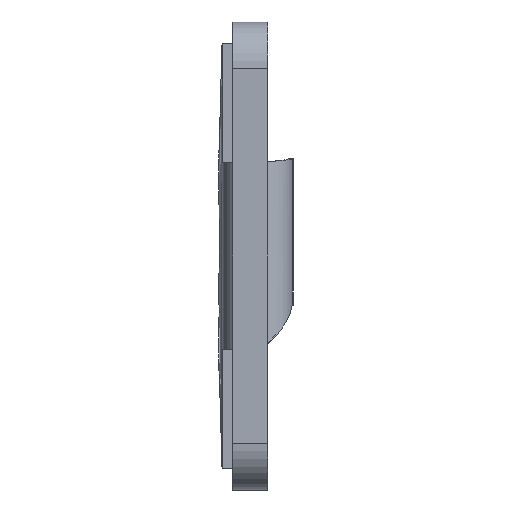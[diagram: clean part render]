
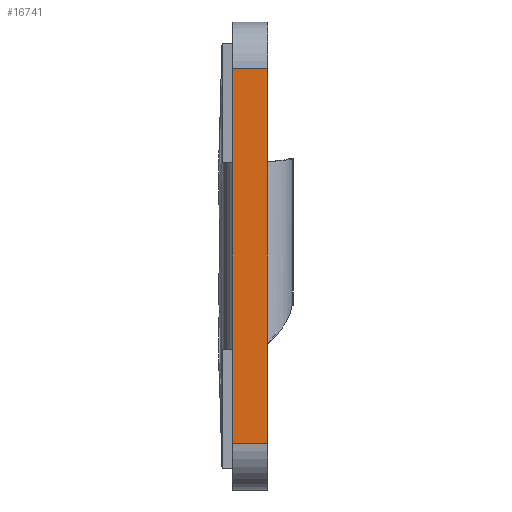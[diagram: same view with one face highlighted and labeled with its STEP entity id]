
A CAD part, left-side view. The second image highlights one B-rep face of the part: STEP entity #16741.
In plain terms, the highlighted planar face has unit normal (-1, 0, 0) as drawn and (0, 0, -1) by its records, which use the part's own axes.
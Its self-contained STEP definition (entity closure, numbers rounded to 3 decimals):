
#1331 = EDGE_CURVE ( 'NONE', #2813, #2835, #6066, .T. ) ;
#1336 = EDGE_CURVE ( 'NONE', #2835, #2851, #6083, .T. ) ;
#1341 = EDGE_CURVE ( 'NONE', #2813, #2898, #6068, .T. ) ;
#1342 = EDGE_CURVE ( 'NONE', #2898, #2851, #6069, .T. ) ;
#2558 = EDGE_LOOP ( 'NONE', ( #3794, #3801, #3732, #3778 ) ) ;
#2813 = VERTEX_POINT ( 'NONE', #7083 ) ;
#2835 = VERTEX_POINT ( 'NONE', #7135 ) ;
#2851 = VERTEX_POINT ( 'NONE', #7155 ) ;
#2898 = VERTEX_POINT ( 'NONE', #7158 ) ;
#3732 = ORIENTED_EDGE ( 'NONE', *, *, #1331, .F. ) ;
#3778 = ORIENTED_EDGE ( 'NONE', *, *, #1341, .T. ) ;
#3794 = ORIENTED_EDGE ( 'NONE', *, *, #1342, .T. ) ;
#3801 = ORIENTED_EDGE ( 'NONE', *, *, #1336, .F. ) ;
#6066 = LINE ( 'NONE', #6701, #6093 ) ;
#6068 = LINE ( 'NONE', #6733, #6089 ) ;
#6069 = LINE ( 'NONE', #6705, #6110 ) ;
#6083 = LINE ( 'NONE', #6734, #6094 ) ;
#6089 = VECTOR ( 'NONE', #6713, 1000. ) ;
#6093 = VECTOR ( 'NONE', #6723, 1000. ) ;
#6094 = VECTOR ( 'NONE', #6702, 1000. ) ;
#6110 = VECTOR ( 'NONE', #6718, 1000. ) ;
#6701 = CARTESIAN_POINT ( 'NONE',  ( -16., 3., -44. ) ) ;
#6702 = DIRECTION ( 'NONE',  ( 0., -1., 0. ) ) ;
#6705 = CARTESIAN_POINT ( 'NONE',  ( -16., 0., -44. ) ) ;
#6713 = DIRECTION ( 'NONE',  ( 0., -1., 0. ) ) ;
#6718 = DIRECTION ( 'NONE',  ( -1., 0., 0. ) ) ;
#6723 = DIRECTION ( 'NONE',  ( -1., 0., 0. ) ) ;
#6733 = CARTESIAN_POINT ( 'NONE',  ( 16., 3., -44. ) ) ;
#6734 = CARTESIAN_POINT ( 'NONE',  ( -16., 3., -44. ) ) ;
#7083 = CARTESIAN_POINT ( 'NONE',  ( 16., 3., -44. ) ) ;
#7135 = CARTESIAN_POINT ( 'NONE',  ( -16., 3., -44. ) ) ;
#7155 = CARTESIAN_POINT ( 'NONE',  ( -16., 0., -44. ) ) ;
#7158 = CARTESIAN_POINT ( 'NONE',  ( 16., 0., -44. ) ) ;
#12400 = AXIS2_PLACEMENT_3D ( 'NONE', #13909, #13931, #13893 ) ;
#13893 = DIRECTION ( 'NONE',  ( 1., 0., 0. ) ) ;
#13907 = PLANE ( 'NONE',  #12400 ) ;
#13909 = CARTESIAN_POINT ( 'NONE',  ( -16., 3., -44. ) ) ;
#13931 = DIRECTION ( 'NONE',  ( 0., 0., 1. ) ) ;
#14323 = FACE_OUTER_BOUND ( 'NONE', #2558, .T. ) ;
#16741 = ADVANCED_FACE ( 'NONE', ( #14323 ), #13907, .F. ) ;
